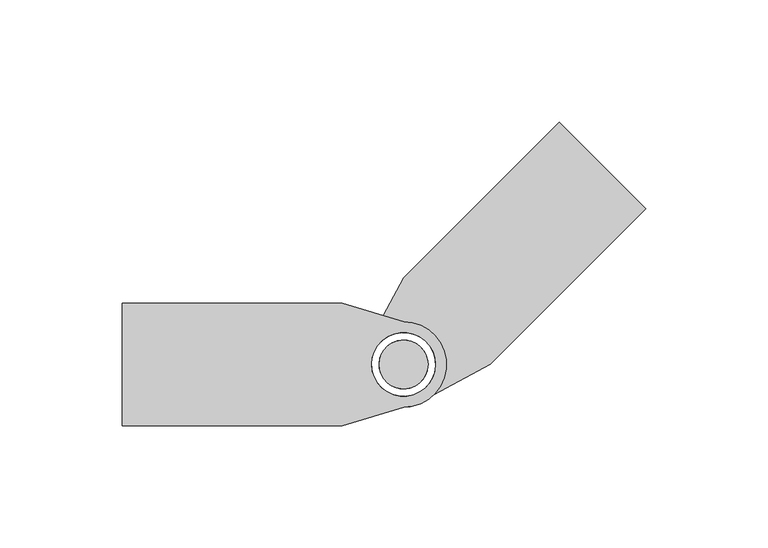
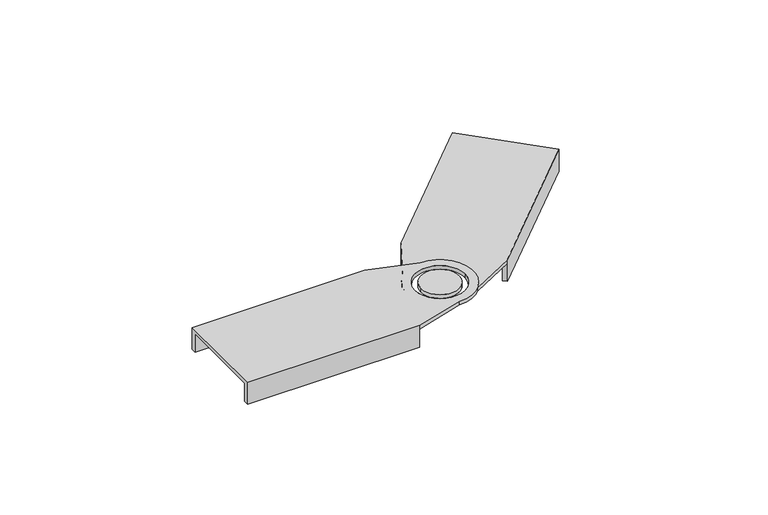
"""IFC4 building model written with IfcOpenShell, lengths in millimetres: cable carrier fitting geometry, BAKS_LD_BEND_Articulated connector_LG : LGC_H45."""

from ifc_helpers import new_model, si_unit, frame, origin, place, context, project, spatial, polyline, circle_curve, source, transform, mapped, element, save
from ifc_brep_helpers import plane_surface, cylinder_surface, revolved_surface, advanced_brep


def cable_carrier_fitting_c1e814a0(model_context):
    return source(origin(), model_context, "Body", "AdvancedBrep", [
        advanced_brep(
        [(-115.0, 25.0, 2.0), (-115.0, -25.0, 2.0), (-25.0, -25.0, 2.0), (0.0, -17.5, 2.0), (0.0, 17.5, 2.0), (-25.0, 25.0, 2.0), (13.0, 0.0, 2.0), (-13.0, 0.0, 2.0), (-25.0, -25.0, 0.0), (-25.0, -22.5, 0.0), (-115.0, -22.5, 0.0), (-115.0, 22.5, 0.0), (-25.0, 22.5, 0.0), (-25.0, 25.0, 0.0), (0.0, 17.5, 0.0), (0.0, -17.5, 0.0), (-13.0, 0.0, 0.0), (13.0, 0.0, 0.0), (-25.0, 25.0, -10.0), (-115.0, 25.0, -10.0), (-115.0, -25.0, -10.0), (-25.0, -25.0, -10.0), (-115.0, 22.5, -10.0), (-115.0, -22.5, -10.0), (-25.0, -22.5, -10.0), (-25.0, 22.5, -10.0)],
        [
            (0, 1),
            (1, 2),
            (2, 3),
            (3, 4, circle_curve(frame((0.0, 0.0, 2.0), z_axis=(0.0, 0.0, 1.0), x_axis=(-1.0, 0.0, 0.0)), 17.5)),
            (4, 5),
            (5, 0),
            (6, 7, circle_curve(frame((0.0, 0.0, 2.0), z_axis=(0.0, 0.0, -1.0), x_axis=(-1.0, 0.0, 0.0)), 13.0)),
            (7, 6, circle_curve(frame((0.0, 0.0, 2.0), z_axis=(0.0, 0.0, -1.0), x_axis=(-1.0, 0.0, 0.0)), 13.0)),
            (8, 9),
            (9, 10),
            (10, 11),
            (11, 12),
            (12, 13),
            (13, 14),
            (14, 15, circle_curve(frame((0.0, 0.0, 0.0), z_axis=(0.0, 0.0, -1.0), x_axis=(-1.0, 0.0, 0.0)), 17.5)),
            (15, 8),
            (16, 17, circle_curve(frame((0.0, 0.0, 0.0), z_axis=(0.0, 0.0, 1.0), x_axis=(-1.0, 0.0, 0.0)), 13.0)),
            (17, 16, circle_curve(frame((0.0, 0.0, 0.0), z_axis=(0.0, 0.0, 1.0), x_axis=(-1.0, 0.0, 0.0)), 13.0)),
            (5, 13),
            (13, 18),
            (18, 19),
            (19, 0),
            (1, 20),
            (20, 21),
            (21, 8),
            (8, 2),
            (19, 22),
            (22, 11),
            (10, 23),
            (23, 20),
            (7, 16),
            (17, 6),
            (4, 14),
            (3, 15),
            (23, 24),
            (24, 21),
            (9, 24),
            (18, 25),
            (25, 22),
            (12, 25),
        ],
        [
            plane_surface(frame((-25.0, 25.0, 2.0), z_axis=(0.0, 0.0, 1.0), x_axis=(1.0, 0.0, 0.0))),
            plane_surface(frame((-25.0, 25.0, 0.0), z_axis=(0.0, 0.0, -1.0), x_axis=(-1.0, 0.0, 0.0))),
            plane_surface(frame((-115.0, 25.0, 2.0), z_axis=(0.0, 1.0, 0.0), x_axis=(0.0, 0.0, -1.0))),
            plane_surface(frame((-25.0, -25.0, 2.0), z_axis=(0.0, -1.0, 0.0), x_axis=(0.0, 0.0, -1.0))),
            plane_surface(frame((-115.0, -25.0, 2.0), z_axis=(-1.0, 0.0, 0.0), x_axis=(0.0, 0.0, -1.0))),
            revolved_surface(polyline([(-13.0, 0.0, 2.0), (-13.0, 0.0, 0.0)]), (0.0, 0.0, 0.0), (0.0, 0.0, 1.0)),
            plane_surface(frame((-25.0, 25.0, 2.0), z_axis=(0.28734788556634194, 0.9578262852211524, 0.0), x_axis=(0.0, 0.0, -1.0))),
            cylinder_surface(frame((0.0, 0.0, 0.0), z_axis=(0.0, 0.0, 1.0), x_axis=(-1.0, 0.0, 0.0)), 17.5),
            plane_surface(frame((0.0, -17.5, 2.0), z_axis=(0.2873478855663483, -0.9578262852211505, 0.0), x_axis=(0.0, 0.0, -1.0))),
            plane_surface(frame((-25.0, -22.5, -10.0), z_axis=(0.0, 0.0, -1.0), x_axis=(-1.0, 0.0, 0.0))),
            plane_surface(frame((-115.0, -22.5, 0.0), z_axis=(0.0, 1.0, 0.0), x_axis=(0.0, 0.0, -1.0))),
            plane_surface(frame((-25.0, -22.5, 0.0), z_axis=(1.0, 0.0, 0.0), x_axis=(0.0, 0.0, -1.0))),
            plane_surface(frame((-25.0, 25.0, -10.0), z_axis=(0.0, 0.0, -1.0), x_axis=(-1.0, 0.0, 0.0))),
            plane_surface(frame((-25.0, 25.0, 0.0), z_axis=(1.0, 0.0, 0.0), x_axis=(0.0, 0.0, -1.0))),
            plane_surface(frame((-25.0, 22.5, 0.0), z_axis=(0.0, -1.0, 0.0), x_axis=(0.0, 0.0, -1.0))),
        ],
        [
            (0, [[1, 2, 3, 4, 5, 6], [7, 8]]),
            (1, [[9, 10, 11, 12, 13, 14, 15, 16], [17, 18]]),
            (2, [[19, 20, 21, 22, -6]]),
            (3, [[23, 24, 25, 26, -2]]),
            (4, [[27, 28, -11, 29, 30, -23, -1, -22]]),
            (5, [[-8, 31, -18, 32]]),
            (5, [[-17, -31, -7, -32]]),
            (6, [[33, -14, -19, -5]]),
            (7, [[34, -15, -33, -4]]),
            (8, [[-26, -16, -34, -3]]),
            (9, [[35, 36, -24, -30]]),
            (10, [[-29, -10, 37, -35]]),
            (11, [[-37, -9, -25, -36]]),
            (12, [[-21, 38, 39, -27]]),
            (13, [[-20, -13, 40, -38]]),
            (14, [[-40, -12, -28, -39]]),
        ],
    ),
        advanced_brep(
        [(10.0, 0.0, 2.0), (-10.0, 0.0, 2.0), (-10.0, 0.0, 0.0), (10.0, 0.0, 0.0)],
        [
            (0, 1, circle_curve(frame((0.0, 0.0, 2.0), z_axis=(0.0, 0.0, 1.0), x_axis=(-1.0, 0.0, 0.0)), 10.0)),
            (1, 0, circle_curve(frame((0.0, 0.0, 2.0), z_axis=(0.0, 0.0, 1.0), x_axis=(-1.0, 0.0, 0.0)), 10.0)),
            (2, 3, circle_curve(frame((0.0, 0.0, 0.0), z_axis=(0.0, 0.0, -1.0), x_axis=(-1.0, 0.0, 0.0)), 10.0)),
            (3, 2, circle_curve(frame((0.0, 0.0, 0.0), z_axis=(0.0, 0.0, -1.0), x_axis=(-1.0, 0.0, 0.0)), 10.0)),
            (1, 2),
            (3, 0),
        ],
        [
            plane_surface(frame((-25.0, 25.0, 2.0), z_axis=(0.0, 0.0, 1.0), x_axis=(1.0, 0.0, 0.0))),
            plane_surface(frame((-25.0, 25.0, 0.0), z_axis=(0.0, 0.0, -1.0), x_axis=(-1.0, 0.0, 0.0))),
            cylinder_surface(frame((0.0, 0.0, 0.0), z_axis=(0.0, 0.0, -1.0), x_axis=(-1.0, 0.0, 0.0)), 10.0),
        ],
        [
            (0, [[1, 2]]),
            (1, [[3, 4]]),
            (2, [[-2, 5, -4, 6]]),
            (2, [[-3, -5, -1, -6]]),
        ],
    ),
        advanced_brep(
        [(63.6396103, 98.9949494, 2.0), (0.0, 35.3553391, 2.0), (-12.3743687, 12.3743687, 2.0), (12.3743687, -12.3743687, 2.0), (35.3553391, 0.0, 2.0), (98.9949494, 63.6396103, 2.0), (-9.1923882, -9.1923882, 2.0), (9.1923882, 9.1923882, 2.0), (35.3553391, 0.0, 0.0), (12.3743687, -12.3743687, 0.0), (-12.3743687, 12.3743687, 0.0), (0.0, 35.3553391, 0.0), (1.767767, 33.5875721, 0.0), (65.4073773, 97.2271824, 0.0), (97.2271824, 65.4073773, 0.0), (33.5875721, 1.767767, 0.0), (9.1923882, 9.1923882, 0.0), (-9.1923882, -9.1923882, 0.0), (63.6396103, 98.9949494, -10.0), (0.0, 35.3553391, -10.0), (35.3553391, 0.0, -10.0), (98.9949494, 63.6396103, -10.0), (97.2271824, 65.4073773, -10.0), (65.4073773, 97.2271824, -10.0), (33.5875721, 1.767767, -10.0), (1.767767, 33.5875721, -10.0)],
        [
            (0, 1),
            (1, 2),
            (2, 3, circle_curve(frame((0.0, 0.0, 2.0), z_axis=(0.0, 0.0, 1.0), x_axis=(0.7071067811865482, 0.7071067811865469, 0.0)), 17.5)),
            (3, 4),
            (4, 5),
            (5, 0),
            (6, 7, circle_curve(frame((0.0, 0.0, 2.0), z_axis=(0.0, 0.0, -1.0), x_axis=(0.7071067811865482, 0.7071067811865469, 0.0)), 13.0)),
            (7, 6, circle_curve(frame((0.0, 0.0, 2.0), z_axis=(0.0, 0.0, -1.0), x_axis=(0.7071067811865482, 0.7071067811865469, 0.0)), 13.0)),
            (8, 9),
            (9, 10, circle_curve(frame((0.0, 0.0, 0.0), z_axis=(0.0, 0.0, -1.0), x_axis=(0.7071067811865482, 0.7071067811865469, 0.0)), 17.5)),
            (10, 11),
            (11, 12),
            (12, 13),
            (13, 14),
            (14, 15),
            (15, 8),
            (16, 17, circle_curve(frame((0.0, 0.0, 0.0), z_axis=(0.0, 0.0, 1.0), x_axis=(0.7071067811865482, 0.7071067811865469, 0.0)), 13.0)),
            (17, 16, circle_curve(frame((0.0, 0.0, 0.0), z_axis=(0.0, 0.0, 1.0), x_axis=(0.7071067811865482, 0.7071067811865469, 0.0)), 13.0)),
            (0, 18),
            (18, 19),
            (19, 11),
            (11, 1),
            (4, 8),
            (8, 20),
            (20, 21),
            (21, 5),
            (21, 22),
            (22, 14),
            (13, 23),
            (23, 18),
            (6, 17),
            (16, 7),
            (10, 2),
            (9, 3),
            (20, 24),
            (24, 22),
            (24, 15),
            (23, 25),
            (25, 19),
            (25, 12),
        ],
        [
            plane_surface(frame((0.0, 35.3553391, 2.0), z_axis=(0.0, 0.0, 1.0), x_axis=(-0.7071067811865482, -0.7071067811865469, 0.0))),
            plane_surface(frame((0.0, 35.3553391, 0.0), z_axis=(0.0, 0.0, -1.0), x_axis=(0.7071067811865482, 0.7071067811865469, 0.0))),
            plane_surface(frame((63.6396103, 98.9949494, 2.0), z_axis=(-0.7071067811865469, 0.7071067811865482, 0.0), x_axis=(0.0, 0.0, -1.0))),
            plane_surface(frame((35.3553391, 0.0, 2.0), z_axis=(0.7071067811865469, -0.7071067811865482, 0.0), x_axis=(0.0, 0.0, -1.0))),
            plane_surface(frame((98.9949494, 63.6396103, 2.0), z_axis=(0.7071067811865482, 0.7071067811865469, 0.0), x_axis=(0.0, 0.0, -1.0))),
            revolved_surface(polyline([(9.192388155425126, 9.19238815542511, 2.0), (9.192388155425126, 9.19238815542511, 0.0)]), (0.0, 0.0, 0.0), (0.0, 0.0, 1.0)),
            plane_surface(frame((0.0, 35.3553391, 2.0), z_axis=(-0.8804710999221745, 0.47409982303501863, 0.0), x_axis=(0.0, 0.0, -1.0))),
            cylinder_surface(frame((0.0, 0.0, 0.0), z_axis=(0.0, 0.0, 1.0), x_axis=(0.7071067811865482, 0.7071067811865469, 0.0)), 17.5),
            plane_surface(frame((12.3743687, -12.3743687, 2.0), z_axis=(0.4740998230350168, -0.8804710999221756, 0.0), x_axis=(0.0, 0.0, -1.0))),
            plane_surface(frame((33.5875721, 1.767767, -10.0), z_axis=(0.0, 0.0, -1.0), x_axis=(0.7071067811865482, 0.7071067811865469, 0.0))),
            plane_surface(frame((97.2271824, 65.4073773, 0.0), z_axis=(-0.7071067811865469, 0.7071067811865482, 0.0), x_axis=(0.0, 0.0, -1.0))),
            plane_surface(frame((33.5875721, 1.767767, 0.0), z_axis=(-0.7071067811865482, -0.7071067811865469, 0.0), x_axis=(0.0, 0.0, -1.0))),
            plane_surface(frame((0.0, 35.3553391, -10.0), z_axis=(0.0, 0.0, -1.0), x_axis=(0.7071067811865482, 0.7071067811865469, 0.0))),
            plane_surface(frame((0.0, 35.3553391, 0.0), z_axis=(-0.7071067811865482, -0.7071067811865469, 0.0), x_axis=(0.0, 0.0, -1.0))),
            plane_surface(frame((1.767767, 33.5875721, 0.0), z_axis=(0.7071067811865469, -0.7071067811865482, 0.0), x_axis=(0.0, 0.0, -1.0))),
        ],
        [
            (0, [[1, 2, 3, 4, 5, 6], [7, 8]]),
            (1, [[9, 10, 11, 12, 13, 14, 15, 16], [17, 18]]),
            (2, [[-1, 19, 20, 21, 22]]),
            (3, [[-5, 23, 24, 25, 26]]),
            (4, [[-19, -6, -26, 27, 28, -14, 29, 30]]),
            (5, [[31, -17, 32, -7]]),
            (5, [[-31, -8, -32, -18]]),
            (6, [[-2, -22, -11, 33]]),
            (7, [[-3, -33, -10, 34]]),
            (8, [[-4, -34, -9, -23]]),
            (9, [[-27, -25, 35, 36]]),
            (10, [[-36, 37, -15, -28]]),
            (11, [[-35, -24, -16, -37]]),
            (12, [[-30, 38, 39, -20]]),
            (13, [[-39, 40, -12, -21]]),
            (14, [[-38, -29, -13, -40]]),
        ],
    ),
        advanced_brep(
        [(-7.0710678, -7.0710678, 2.0), (7.0710678, 7.0710678, 2.0), (7.0710678, 7.0710678, 0.0), (-7.0710678, -7.0710678, 0.0)],
        [
            (0, 1, circle_curve(frame((0.0, 0.0, 2.0), z_axis=(0.0, 0.0, 1.0), x_axis=(0.7071067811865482, 0.7071067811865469, 0.0)), 10.0)),
            (1, 0, circle_curve(frame((0.0, 0.0, 2.0), z_axis=(0.0, 0.0, 1.0), x_axis=(0.7071067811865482, 0.7071067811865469, 0.0)), 10.0)),
            (2, 3, circle_curve(frame((0.0, 0.0, 0.0), z_axis=(0.0, 0.0, -1.0), x_axis=(0.7071067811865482, 0.7071067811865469, 0.0)), 10.0)),
            (3, 2, circle_curve(frame((0.0, 0.0, 0.0), z_axis=(0.0, 0.0, -1.0), x_axis=(0.7071067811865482, 0.7071067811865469, 0.0)), 10.0)),
            (0, 3),
            (2, 1),
        ],
        [
            plane_surface(frame((0.0, 35.3553391, 2.0), z_axis=(0.0, 0.0, 1.0), x_axis=(-0.7071067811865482, -0.7071067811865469, 0.0))),
            plane_surface(frame((0.0, 35.3553391, 0.0), z_axis=(0.0, 0.0, -1.0), x_axis=(0.7071067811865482, 0.7071067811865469, 0.0))),
            cylinder_surface(frame((0.0, 0.0, 0.0), z_axis=(0.0, 0.0, -1.0), x_axis=(0.7071067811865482, 0.7071067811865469, 0.0)), 10.0),
        ],
        [
            (0, [[1, 2]]),
            (1, [[3, 4]]),
            (2, [[5, -3, 6, -1]]),
            (2, [[-5, -2, -6, -4]]),
        ],
    ),
    ])


if __name__ == "__main__":
    model = new_model("IFC4")
    model_context = context("Model", 3, world=origin())
    ifc_project = project(units=[si_unit("LENGTHUNIT", "METRE", prefix="MILLI")], contexts=[model_context])
    site = spatial("IfcSite", under=ifc_project)
    building = spatial("IfcBuilding", under=site)
    placement = place(None, origin())
    cable_carrier_fitting_shape = cable_carrier_fitting_c1e814a0(model_context)
    element("IfcCableCarrierFitting", 1, ObjectType="BAKS_LD_BEND_Articulated connector_LG : LGC_H45", at=placement, inside=building, context=model_context, shape_type="MappedRepresentation", body=[
        mapped(cable_carrier_fitting_shape, transform((0.0, 0.0, 0.0), x_axis=(1.0, 0.0, 0.0), y_axis=(0.0, 1.0, 0.0), z_axis=(0.0, 0.0, 1.0))),
    ])
    save(model, "model.ifc")
